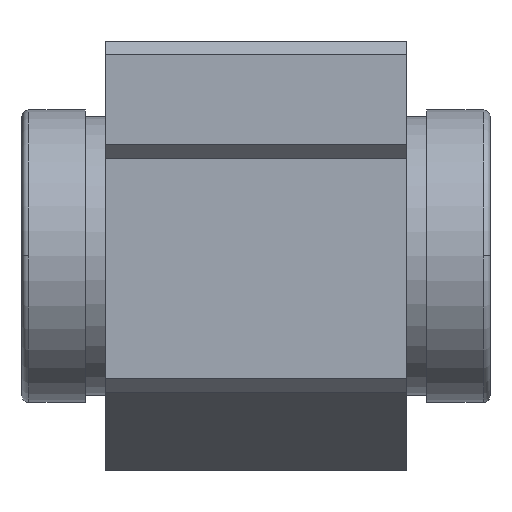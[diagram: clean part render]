
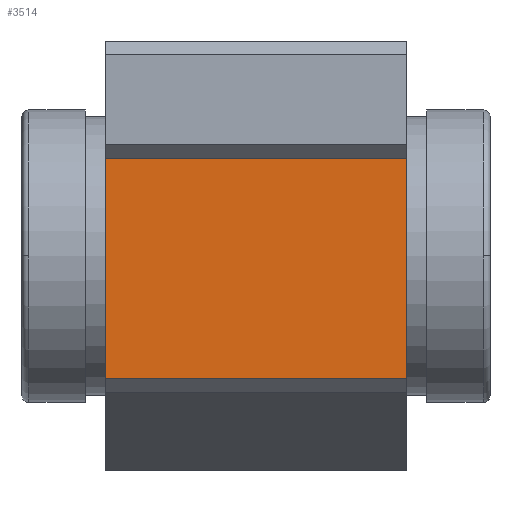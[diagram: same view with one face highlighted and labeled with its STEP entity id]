
A CAD part, top view. The second image highlights one B-rep face of the part: STEP entity #3514.
In plain terms, the highlighted planar face has unit normal (0, 0, 1).
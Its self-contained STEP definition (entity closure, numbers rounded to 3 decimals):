
#883 = PLANE('',#884);
#884 = AXIS2_PLACEMENT_3D('',#885,#886,#887);
#885 = CARTESIAN_POINT('',(7.7,1.387,0.));
#886 = DIRECTION('',(1.,0.,0.));
#887 = DIRECTION('',(0.,0.,-1.));
#999 = PLANE('',#1000);
#1000 = AXIS2_PLACEMENT_3D('',#1001,#1002,#1003);
#1001 = CARTESIAN_POINT('',(-7.7,1.387,0.));
#1002 = DIRECTION('',(1.,0.,0.));
#1003 = DIRECTION('',(0.,0.,-1.));
#3405 = PLANE('',#3406);
#3406 = AXIS2_PLACEMENT_3D('',#3407,#3408,#3409);
#3407 = CARTESIAN_POINT('',(-7.7,-6.66,15.98));
#3408 = DIRECTION('',(0.,-0.707,0.707)
  );
#3409 = DIRECTION('',(0.,-0.707,-0.707)
  );
#3443 = VERTEX_POINT('',#3444);
#3444 = CARTESIAN_POINT('',(7.7,-6.32,16.32));
#3465 = EDGE_CURVE('',#3466,#3443,#3468,.T.);
#3466 = VERTEX_POINT('',#3467);
#3467 = CARTESIAN_POINT('',(-7.7,-6.32,16.32));
#3468 = SURFACE_CURVE('',#3469,(#3473,#3480),.PCURVE_S1.);
#3469 = LINE('',#3470,#3471);
#3470 = CARTESIAN_POINT('',(-7.7,-6.32,16.32));
#3471 = VECTOR('',#3472,1.);
#3472 = DIRECTION('',(1.,0.,0.));
#3473 = PCURVE('',#3405,#3474);
#3474 = DEFINITIONAL_REPRESENTATION('',(#3475),#3479);
#3475 = LINE('',#3476,#3477);
#3476 = CARTESIAN_POINT('',(-0.481,0.));
#3477 = VECTOR('',#3478,1.);
#3478 = DIRECTION('',(0.,1.));
#3479 = ( GEOMETRIC_REPRESENTATION_CONTEXT(2) 
PARAMETRIC_REPRESENTATION_CONTEXT() REPRESENTATION_CONTEXT('2D SPACE',''
  ) );
#3480 = PCURVE('',#3481,#3486);
#3481 = PLANE('',#3482);
#3482 = AXIS2_PLACEMENT_3D('',#3483,#3484,#3485);
#3483 = CARTESIAN_POINT('',(-7.7,-0.66,16.32));
#3484 = DIRECTION('',(0.,0.,1.));
#3485 = DIRECTION('',(0.,-1.,0.));
#3486 = DEFINITIONAL_REPRESENTATION('',(#3487),#3491);
#3487 = LINE('',#3488,#3489);
#3488 = CARTESIAN_POINT('',(5.66,0.));
#3489 = VECTOR('',#3490,1.);
#3490 = DIRECTION('',(0.,1.));
#3491 = ( GEOMETRIC_REPRESENTATION_CONTEXT(2) 
PARAMETRIC_REPRESENTATION_CONTEXT() REPRESENTATION_CONTEXT('2D SPACE',''
  ) );
#3514 = ADVANCED_FACE('',(#3515),#3481,.T.);
#3515 = FACE_BOUND('',#3516,.T.);
#3516 = EDGE_LOOP('',(#3517,#3540,#3568,#3589));
#3517 = ORIENTED_EDGE('',*,*,#3518,.T.);
#3518 = EDGE_CURVE('',#3443,#3519,#3521,.T.);
#3519 = VERTEX_POINT('',#3520);
#3520 = CARTESIAN_POINT('',(7.7,5.,16.32));
#3521 = SURFACE_CURVE('',#3522,(#3526,#3533),.PCURVE_S1.);
#3522 = LINE('',#3523,#3524);
#3523 = CARTESIAN_POINT('',(7.7,5.,16.32));
#3524 = VECTOR('',#3525,1.);
#3525 = DIRECTION('',(0.,1.,0.));
#3526 = PCURVE('',#3481,#3527);
#3527 = DEFINITIONAL_REPRESENTATION('',(#3528),#3532);
#3528 = LINE('',#3529,#3530);
#3529 = CARTESIAN_POINT('',(-5.66,15.4));
#3530 = VECTOR('',#3531,1.);
#3531 = DIRECTION('',(-1.,0.));
#3532 = ( GEOMETRIC_REPRESENTATION_CONTEXT(2) 
PARAMETRIC_REPRESENTATION_CONTEXT() REPRESENTATION_CONTEXT('2D SPACE',''
  ) );
#3533 = PCURVE('',#883,#3534);
#3534 = DEFINITIONAL_REPRESENTATION('',(#3535),#3539);
#3535 = LINE('',#3536,#3537);
#3536 = CARTESIAN_POINT('',(-16.32,3.613));
#3537 = VECTOR('',#3538,1.);
#3538 = DIRECTION('',(0.,1.));
#3539 = ( GEOMETRIC_REPRESENTATION_CONTEXT(2) 
PARAMETRIC_REPRESENTATION_CONTEXT() REPRESENTATION_CONTEXT('2D SPACE',''
  ) );
#3540 = ORIENTED_EDGE('',*,*,#3541,.F.);
#3541 = EDGE_CURVE('',#3542,#3519,#3544,.T.);
#3542 = VERTEX_POINT('',#3543);
#3543 = CARTESIAN_POINT('',(-7.7,5.,16.32));
#3544 = SURFACE_CURVE('',#3545,(#3549,#3556),.PCURVE_S1.);
#3545 = LINE('',#3546,#3547);
#3546 = CARTESIAN_POINT('',(-7.7,5.,16.32));
#3547 = VECTOR('',#3548,1.);
#3548 = DIRECTION('',(1.,0.,0.));
#3549 = PCURVE('',#3481,#3550);
#3550 = DEFINITIONAL_REPRESENTATION('',(#3551),#3555);
#3551 = LINE('',#3552,#3553);
#3552 = CARTESIAN_POINT('',(-5.66,0.));
#3553 = VECTOR('',#3554,1.);
#3554 = DIRECTION('',(0.,1.));
#3555 = ( GEOMETRIC_REPRESENTATION_CONTEXT(2) 
PARAMETRIC_REPRESENTATION_CONTEXT() REPRESENTATION_CONTEXT('2D SPACE',''
  ) );
#3556 = PCURVE('',#3557,#3562);
#3557 = PLANE('',#3558);
#3558 = AXIS2_PLACEMENT_3D('',#3559,#3560,#3561);
#3559 = CARTESIAN_POINT('',(-7.7,5.34,16.66));
#3560 = DIRECTION('',(0.,-0.707,0.707)
  );
#3561 = DIRECTION('',(0.,-0.707,-0.707)
  );
#3562 = DEFINITIONAL_REPRESENTATION('',(#3563),#3567);
#3563 = LINE('',#3564,#3565);
#3564 = CARTESIAN_POINT('',(0.481,0.));
#3565 = VECTOR('',#3566,1.);
#3566 = DIRECTION('',(0.,1.));
#3567 = ( GEOMETRIC_REPRESENTATION_CONTEXT(2) 
PARAMETRIC_REPRESENTATION_CONTEXT() REPRESENTATION_CONTEXT('2D SPACE',''
  ) );
#3568 = ORIENTED_EDGE('',*,*,#3569,.T.);
#3569 = EDGE_CURVE('',#3542,#3466,#3570,.T.);
#3570 = SURFACE_CURVE('',#3571,(#3575,#3582),.PCURVE_S1.);
#3571 = LINE('',#3572,#3573);
#3572 = CARTESIAN_POINT('',(-7.7,5.,16.32));
#3573 = VECTOR('',#3574,1.);
#3574 = DIRECTION('',(0.,-1.,0.));
#3575 = PCURVE('',#3481,#3576);
#3576 = DEFINITIONAL_REPRESENTATION('',(#3577),#3581);
#3577 = LINE('',#3578,#3579);
#3578 = CARTESIAN_POINT('',(-5.66,0.));
#3579 = VECTOR('',#3580,1.);
#3580 = DIRECTION('',(1.,0.));
#3581 = ( GEOMETRIC_REPRESENTATION_CONTEXT(2) 
PARAMETRIC_REPRESENTATION_CONTEXT() REPRESENTATION_CONTEXT('2D SPACE',''
  ) );
#3582 = PCURVE('',#999,#3583);
#3583 = DEFINITIONAL_REPRESENTATION('',(#3584),#3588);
#3584 = LINE('',#3585,#3586);
#3585 = CARTESIAN_POINT('',(-16.32,3.613));
#3586 = VECTOR('',#3587,1.);
#3587 = DIRECTION('',(0.,-1.));
#3588 = ( GEOMETRIC_REPRESENTATION_CONTEXT(2) 
PARAMETRIC_REPRESENTATION_CONTEXT() REPRESENTATION_CONTEXT('2D SPACE',''
  ) );
#3589 = ORIENTED_EDGE('',*,*,#3465,.T.);
